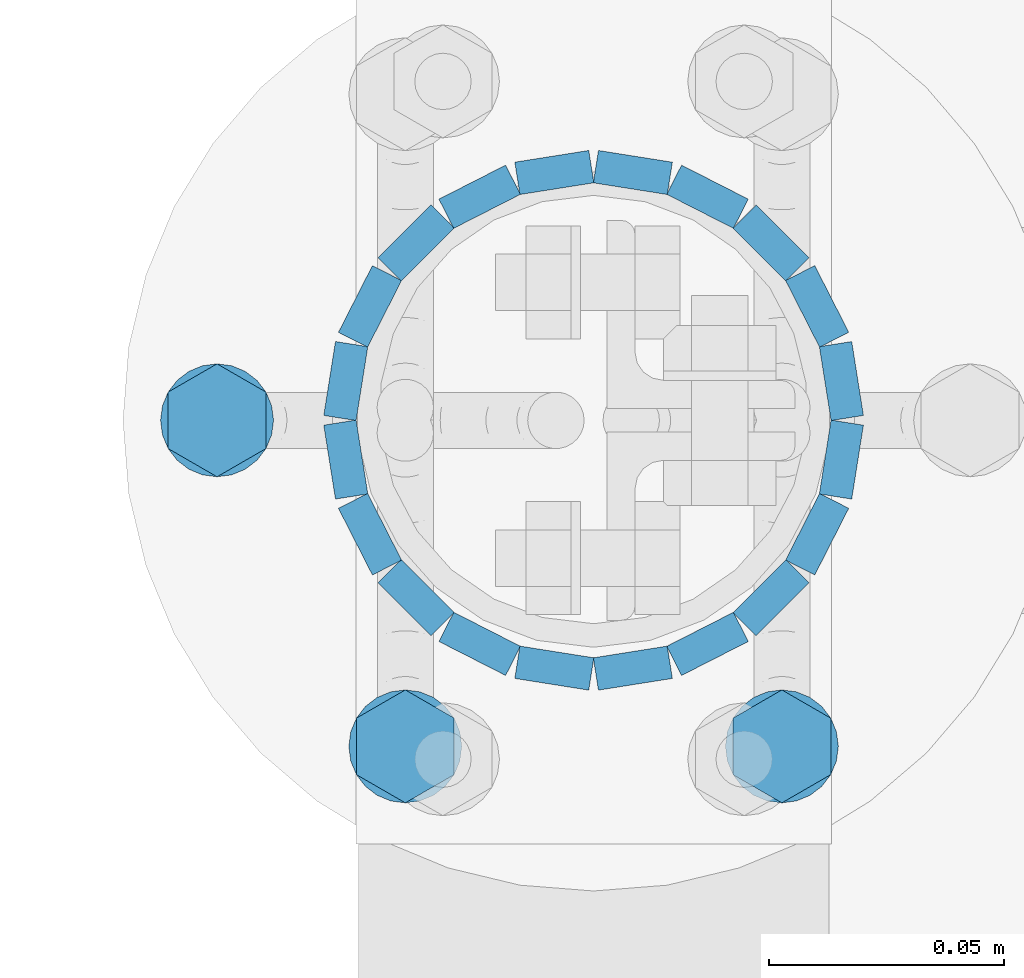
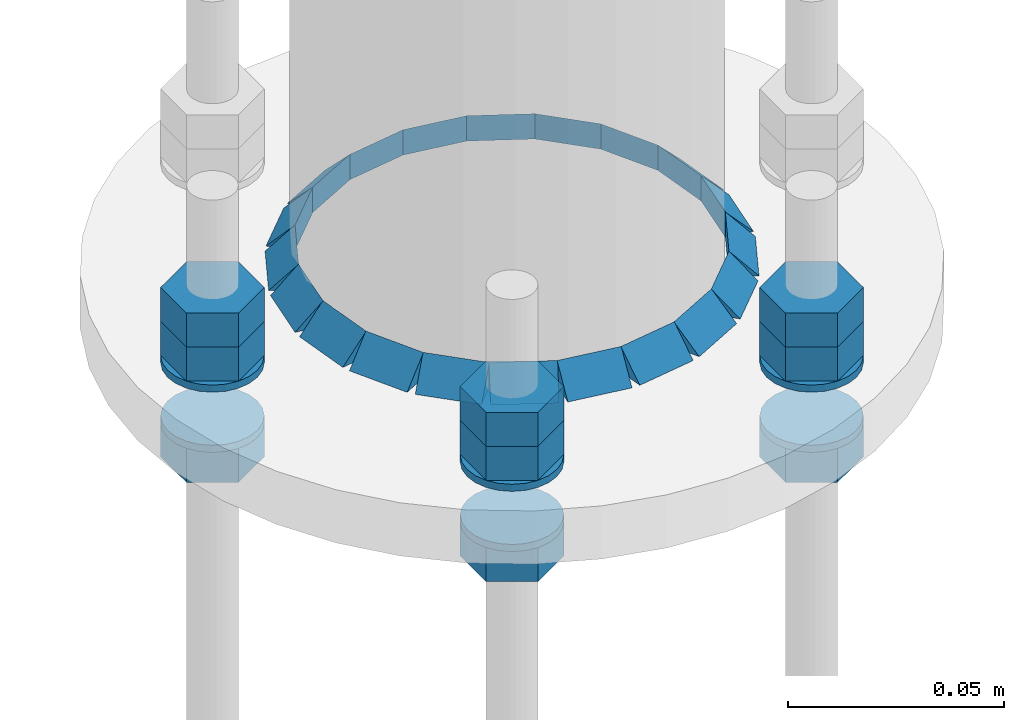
# One storey, part 24 of 84: 40 fasteners, 15 mechanical fasteners.
"""IFC4 building model written with IfcOpenShell, lengths in metres."""

from ifc_helpers import new_model, si_unit, frame, origin_with_axes, place, context, project, spatial, polyline, outline, extrude, type_object, element, save


model = new_model("IFC4")

# Units and contexts
model_context = context("Model", 3, precision=1e-05, world=origin_with_axes())
ifc_project = project(units=[si_unit("LENGTHUNIT", "METRE"), si_unit("AREAUNIT", "SQUARE_METRE"), si_unit("VOLUMEUNIT", "CUBIC_METRE"), si_unit("MASSUNIT", "GRAM", prefix="KILO"), si_unit("TIMEUNIT", "SECOND"), si_unit("PLANEANGLEUNIT", "RADIAN"), si_unit("SOLIDANGLEUNIT", "STERADIAN"), si_unit("THERMODYNAMICTEMPERATUREUNIT", "DEGREE_CELSIUS")], contexts=[model_context])

# Site, building, storey
placement_1 = place(None, origin_with_axes())
site = spatial("IfcSite", under=ifc_project, at=placement_1, Name="Italia", CompositionType="ELEMENT")
building = spatial("IfcBuilding", under=site, at=placement_1, Name="Tettoia", CompositionType="ELEMENT")
storey_placement = place(None, frame((0.0, 0.0, 4.199999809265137), z_axis=(0.0, 0.0, 1.0), x_axis=(1.0, 0.0, 0.0)))
storey = spatial("IfcBuildingStorey", under=building, at=storey_placement, Name="Storey 1", CompositionType="ELEMENT", Elevation=4.199999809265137)

# Fasteners
fastener_type_1 = type_object("IfcFastenerType", Name="Collegamento -003_0103", PredefinedType="WELD")
placement_2 = place(placement_1, origin_with_axes())
fastener_1_placement = place(placement_2, origin_with_axes())
element("IfcFastener", 1, at=fastener_1_placement, inside=storey, type_object=fastener_type_1, Name="Collegamento -003_0103", context=model_context, shape_type="SweptSolid", body=[
    extrude(outline(polyline([(0.0, 0.0), (0.00695801, 0.00717354), (0.00695801, 0.0), (0.0, 0.0)])), frame((8.30674, 4.70484, 4.01495), z_axis=(-0.987694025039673, 0.156398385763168, 0.0), x_axis=(-0.156398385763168, -0.987694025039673, 0.0)), (0.0, 0.0, 1.0), 0.0158998),
])
fastener_type_2 = type_object("IfcFastenerType", Name="Collegamento -003_0103", PredefinedType="WELD")
fastener_2_placement = place(placement_2, origin_with_axes())
element("IfcFastener", 2, at=fastener_2_placement, inside=storey, type_object=fastener_type_2, Name="Collegamento -003_0103", context=model_context, shape_type="SweptSolid", body=[
    extrude(outline(polyline([(0.0, 0.0), (0.00695705, 0.00717354), (0.00695705, 0.0), (0.0, 0.0)])), frame((8.32286, 4.69699, 4.01495), z_axis=(-0.891006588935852, 0.453990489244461, 0.0), x_axis=(-0.453990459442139, -0.891006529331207, 0.0)), (0.0, 0.0, 1.0), 0.0158998),
])
fastener_type_3 = type_object("IfcFastenerType", Name="Collegamento -003_0103", PredefinedType="WELD")
fastener_3_placement = place(placement_2, origin_with_axes())
element("IfcFastener", 3, at=fastener_3_placement, inside=storey, type_object=fastener_type_3, Name="Collegamento -003_0103", context=model_context, shape_type="SweptSolid", body=[
    extrude(outline(polyline([(0.0, 0.0), (0.00695801, 0.00717354), (0.00695801, 0.0), (0.0, 0.0)])), frame((8.33578, 4.68453, 4.01495), z_axis=(-0.70710676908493, 0.70710676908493, 0.0), x_axis=(-0.70710676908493, -0.70710676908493, 0.0)), (0.0, 0.0, 1.0), 0.0158998),
])
fastener_type_4 = type_object("IfcFastenerType", Name="Collegamento -003_0103", PredefinedType="WELD")
fastener_4_placement = place(placement_2, origin_with_axes())
element("IfcFastener", 4, at=fastener_4_placement, inside=storey, type_object=fastener_type_4, Name="Collegamento -003_0103", context=model_context, shape_type="SweptSolid", body=[
    extrude(outline(polyline([(0.0, 0.0), (0.00695896, 0.00717354), (0.00695896, 0.0), (0.0, 0.0)])), frame((8.34421, 4.6687, 4.01495), z_axis=(-0.453990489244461, 0.891006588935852, 0.0), x_axis=(-0.891006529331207, -0.453990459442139, 0.0)), (0.0, 0.0, 1.0), 0.0158998),
])
fastener_type_5 = type_object("IfcFastenerType", Name="Collegamento -003_0103", PredefinedType="WELD")
fastener_5_placement = place(placement_2, origin_with_axes())
element("IfcFastener", 5, at=fastener_5_placement, inside=storey, type_object=fastener_type_5, Name="Collegamento -003_0103", context=model_context, shape_type="SweptSolid", body=[
    extrude(outline(polyline([(0.0, 0.0), (0.00695896, 0.00717354), (0.00695896, 0.0), (0.0, 0.0)])), frame((8.34733, 4.65103, 4.01495), z_axis=(-0.1564861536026, 0.987680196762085, 0.0), x_axis=(-0.98768013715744, -0.156486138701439, 0.0)), (0.0, 0.0, 1.0), 0.0159),
])
fastener_type_6 = type_object("IfcFastenerType", Name="Collegamento -003_0103", PredefinedType="WELD")
fastener_6_placement = place(placement_2, origin_with_axes())
element("IfcFastener", 6, at=fastener_6_placement, inside=storey, type_object=fastener_type_6, Name="Collegamento -003_0103", context=model_context, shape_type="SweptSolid", body=[
    extrude(outline(polyline([(0.0, 0.0), (0.00695753, 0.00717354), (0.00695753, 0.0), (0.0, 0.0)])), frame((8.34484, 4.63326, 4.01495), z_axis=(0.1564861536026, 0.987680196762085, 0.0), x_axis=(-0.98768013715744, 0.156486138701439, 0.0)), (0.0, 0.0, 1.0), 0.0159),
])
fastener_type_7 = type_object("IfcFastenerType", Name="Collegamento -003_0103", PredefinedType="WELD")
fastener_7_placement = place(placement_2, origin_with_axes())
element("IfcFastener", 7, at=fastener_7_placement, inside=storey, type_object=fastener_type_7, Name="Collegamento -003_0103", context=model_context, shape_type="SweptSolid", body=[
    extrude(outline(polyline([(0.0, 0.0), (0.00695801, 0.00717354), (0.00695801, 0.0), (0.0, 0.0)])), frame((8.33699, 4.61714, 4.01495), z_axis=(0.453990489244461, 0.891006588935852, 0.0), x_axis=(-0.891006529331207, 0.453990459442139, 0.0)), (0.0, 0.0, 1.0), 0.0158998),
])
fastener_type_8 = type_object("IfcFastenerType", Name="Collegamento -003_0103", PredefinedType="WELD")
fastener_8_placement = place(placement_2, origin_with_axes())
element("IfcFastener", 8, at=fastener_8_placement, inside=storey, type_object=fastener_type_8, Name="Collegamento -003_0103", context=model_context, shape_type="SweptSolid", body=[
    extrude(outline(polyline([(0.0, 0.0), (0.00695801, 0.00717354), (0.00695801, 0.0), (0.0, 0.0)])), frame((8.32453, 4.60422, 4.01495), z_axis=(0.70710676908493, 0.70710676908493, 0.0), x_axis=(-0.70710676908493, 0.70710676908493, 0.0)), (0.0, 0.0, 1.0), 0.0158998),
])
fastener_type_9 = type_object("IfcFastenerType", Name="Collegamento -003_0103", PredefinedType="WELD")
fastener_9_placement = place(placement_2, origin_with_axes())
element("IfcFastener", 9, at=fastener_9_placement, inside=storey, type_object=fastener_type_9, Name="Collegamento -003_0103", context=model_context, shape_type="SweptSolid", body=[
    extrude(outline(polyline([(0.0, 0.0), (0.00695848, 0.00717354), (0.00695848, 0.0), (0.0, 0.0)])), frame((8.3087, 4.59579, 4.01495), z_axis=(0.891006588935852, 0.453990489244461, 0.0), x_axis=(-0.453990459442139, 0.891006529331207, 0.0)), (0.0, 0.0, 1.0), 0.0158998),
])
fastener_type_10 = type_object("IfcFastenerType", Name="Collegamento -003_0103", PredefinedType="WELD")
fastener_10_placement = place(placement_2, origin_with_axes())
element("IfcFastener", 10, at=fastener_10_placement, inside=storey, type_object=fastener_type_10, Name="Collegamento -003_0103", context=model_context, shape_type="SweptSolid", body=[
    extrude(outline(polyline([(0.0, 0.0), (0.00695777, 0.00717354), (0.00695777, 0.0), (0.0, 0.0)])), frame((8.29103, 4.59267, 4.01495), z_axis=(0.987694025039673, 0.156398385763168, 0.0), x_axis=(-0.156398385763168, 0.987694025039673, 0.0)), (0.0, 0.0, 1.0), 0.0158998),
])
fastener_type_11 = type_object("IfcFastenerType", Name="Collegamento -003_0103", PredefinedType="WELD")
fastener_11_placement = place(placement_2, origin_with_axes())
element("IfcFastener", 11, at=fastener_11_placement, inside=storey, type_object=fastener_type_11, Name="Collegamento -003_0103", context=model_context, shape_type="SweptSolid", body=[
    extrude(outline(polyline([(0.0, 0.0), (0.00695848, 0.00717354), (0.00695848, 0.0), (0.0, 0.0)])), frame((8.27326, 4.59516, 4.01495), z_axis=(0.987694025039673, -0.156398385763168, 0.0), x_axis=(0.156398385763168, 0.987694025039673, 0.0)), (0.0, 0.0, 1.0), 0.0158998),
])
fastener_type_12 = type_object("IfcFastenerType", Name="Collegamento -003_0103", PredefinedType="WELD")
fastener_12_placement = place(placement_2, origin_with_axes())
element("IfcFastener", 12, at=fastener_12_placement, inside=storey, type_object=fastener_type_12, Name="Collegamento -003_0103", context=model_context, shape_type="SweptSolid", body=[
    extrude(outline(polyline([(0.0, 0.0), (0.00695801, 0.00717354), (0.00695801, 0.0), (0.0, 0.0)])), frame((8.25714, 4.60301, 4.01495), z_axis=(0.891006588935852, -0.453990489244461, 0.0), x_axis=(0.453990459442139, 0.891006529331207, 0.0)), (0.0, 0.0, 1.0), 0.0158998),
])
fastener_type_13 = type_object("IfcFastenerType", Name="Collegamento -003_0103", PredefinedType="WELD")
fastener_13_placement = place(placement_2, origin_with_axes())
element("IfcFastener", 13, at=fastener_13_placement, inside=storey, type_object=fastener_type_13, Name="Collegamento -003_0103", context=model_context, shape_type="SweptSolid", body=[
    extrude(outline(polyline([(0.0, 0.0), (0.00695801, 0.00717354), (0.00695801, 0.0), (0.0, 0.0)])), frame((8.24422, 4.61547, 4.01495), z_axis=(0.70710676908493, -0.70710676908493, 0.0), x_axis=(0.70710676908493, 0.70710676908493, 0.0)), (0.0, 0.0, 1.0), 0.0158998),
])
fastener_type_14 = type_object("IfcFastenerType", Name="Collegamento -003_0103", PredefinedType="WELD")
fastener_14_placement = place(placement_2, origin_with_axes())
element("IfcFastener", 14, at=fastener_14_placement, inside=storey, type_object=fastener_type_14, Name="Collegamento -003_0103", context=model_context, shape_type="SweptSolid", body=[
    extrude(outline(polyline([(0.0, 0.0), (0.00695801, 0.00717354), (0.00695801, 0.0), (0.0, 0.0)])), frame((8.23579, 4.6313, 4.01495), z_axis=(0.453990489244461, -0.891006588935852, 0.0), x_axis=(0.891006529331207, 0.453990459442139, 0.0)), (0.0, 0.0, 1.0), 0.0158998),
])
fastener_type_15 = type_object("IfcFastenerType", Name="Collegamento -003_0103", PredefinedType="WELD")
fastener_15_placement = place(placement_2, origin_with_axes())
element("IfcFastener", 15, at=fastener_15_placement, inside=storey, type_object=fastener_type_15, Name="Collegamento -003_0103", context=model_context, shape_type="SweptSolid", body=[
    extrude(outline(polyline([(0.0, 0.0), (0.00695992, 0.00717354), (0.00695992, 0.0), (0.0, 0.0)])), frame((8.23267, 4.64897, 4.01495), z_axis=(0.1564861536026, -0.987680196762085, 0.0), x_axis=(0.98768013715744, 0.156486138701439, 0.0)), (0.0, 0.0, 1.0), 0.0159),
])
fastener_type_16 = type_object("IfcFastenerType", Name="Collegamento -003_0103", PredefinedType="WELD")
fastener_16_placement = place(placement_2, origin_with_axes())
element("IfcFastener", 16, at=fastener_16_placement, inside=storey, type_object=fastener_type_16, Name="Collegamento -003_0103", context=model_context, shape_type="SweptSolid", body=[
    extrude(outline(polyline([(0.0, 0.0), (0.00695753, 0.00717354), (0.00695753, 0.0), (0.0, 0.0)])), frame((8.23516, 4.66674, 4.01495), z_axis=(-0.1564861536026, -0.987680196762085, 0.0), x_axis=(0.98768013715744, -0.156486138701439, 0.0)), (0.0, 0.0, 1.0), 0.0159),
])
fastener_type_17 = type_object("IfcFastenerType", Name="Collegamento -003_0103", PredefinedType="WELD")
fastener_17_placement = place(placement_2, origin_with_axes())
element("IfcFastener", 17, at=fastener_17_placement, inside=storey, type_object=fastener_type_17, Name="Collegamento -003_0103", context=model_context, shape_type="SweptSolid", body=[
    extrude(outline(polyline([(0.0, 0.0), (0.00695848, 0.00717354), (0.00695848, 0.0), (0.0, 0.0)])), frame((8.24301, 4.68286, 4.01495), z_axis=(-0.453990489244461, -0.891006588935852, 0.0), x_axis=(0.891006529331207, -0.453990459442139, 0.0)), (0.0, 0.0, 1.0), 0.0158998),
])
fastener_type_18 = type_object("IfcFastenerType", Name="Collegamento -003_0103", PredefinedType="WELD")
fastener_18_placement = place(placement_2, origin_with_axes())
element("IfcFastener", 18, at=fastener_18_placement, inside=storey, type_object=fastener_type_18, Name="Collegamento -003_0103", context=model_context, shape_type="SweptSolid", body=[
    extrude(outline(polyline([(0.0, 0.0), (0.00695801, 0.00717354), (0.00695801, 0.0), (0.0, 0.0)])), frame((8.25547, 4.69578, 4.01495), z_axis=(-0.70710676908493, -0.70710676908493, 0.0), x_axis=(0.70710676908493, -0.70710676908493, 0.0)), (0.0, 0.0, 1.0), 0.0158998),
])
fastener_type_19 = type_object("IfcFastenerType", Name="Collegamento -003_0103", PredefinedType="WELD")
fastener_19_placement = place(placement_2, origin_with_axes())
element("IfcFastener", 19, at=fastener_19_placement, inside=storey, type_object=fastener_type_19, Name="Collegamento -003_0103", context=model_context, shape_type="SweptSolid", body=[
    extrude(outline(polyline([(0.0, 0.0), (0.00695825, 0.00717354), (0.00695825, 0.0), (0.0, 0.0)])), frame((8.2713, 4.70421, 4.01495), z_axis=(-0.891006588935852, -0.453990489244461, 0.0), x_axis=(0.453990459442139, -0.891006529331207, 0.0)), (0.0, 0.0, 1.0), 0.0158998),
])
fastener_type_20 = type_object("IfcFastenerType", Name="Collegamento -003_0103", PredefinedType="WELD")
fastener_20_placement = place(placement_2, origin_with_axes())
element("IfcFastener", 20, at=fastener_20_placement, inside=storey, type_object=fastener_type_20, Name="Collegamento -003_0103", context=model_context, shape_type="SweptSolid", body=[
    extrude(outline(polyline([(0.0, 0.0), (0.00695753, 0.00717354), (0.00695753, 0.0), (0.0, 0.0)])), frame((8.28897, 4.70733, 4.01495), z_axis=(-0.987694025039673, -0.156398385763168, 0.0), x_axis=(0.156398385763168, -0.987694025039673, 0.0)), (0.0, 0.0, 1.0), 0.0158998),
])
fastener_type_21 = type_object("IfcFastenerType", Name="Collegamento -003_0103", PredefinedType="WELD")
fastener_21_placement = place(placement_2, origin_with_axes())
element("IfcFastener", 21, at=fastener_21_placement, inside=storey, type_object=fastener_type_21, Name="Collegamento -003_0103", context=model_context, shape_type="SweptSolid", body=[
    extrude(outline(polyline([(0.0, 0.0), (0.00695801, 0.00717354), (0.00695801, 0.0), (0.0, 0.0)])), frame((8.30674, 4.70484, 4.01495), z_axis=(-0.987694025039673, 0.156398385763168, 0.0), x_axis=(-0.156398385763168, -0.987694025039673, 0.0)), (0.0, 0.0, 1.0), 0.0158998),
])
fastener_type_22 = type_object("IfcFastenerType", Name="Collegamento -003_0103", PredefinedType="WELD")
fastener_22_placement = place(placement_2, origin_with_axes())
element("IfcFastener", 22, at=fastener_22_placement, inside=storey, type_object=fastener_type_22, Name="Collegamento -003_0103", context=model_context, shape_type="SweptSolid", body=[
    extrude(outline(polyline([(0.0, 0.0), (0.00695705, 0.00717354), (0.00695705, 0.0), (0.0, 0.0)])), frame((8.32286, 4.69699, 4.01495), z_axis=(-0.891006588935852, 0.453990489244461, 0.0), x_axis=(-0.453990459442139, -0.891006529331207, 0.0)), (0.0, 0.0, 1.0), 0.0158998),
])
fastener_type_23 = type_object("IfcFastenerType", Name="Collegamento -003_0103", PredefinedType="WELD")
fastener_23_placement = place(placement_2, origin_with_axes())
element("IfcFastener", 23, at=fastener_23_placement, inside=storey, type_object=fastener_type_23, Name="Collegamento -003_0103", context=model_context, shape_type="SweptSolid", body=[
    extrude(outline(polyline([(0.0, 0.0), (0.00695801, 0.00717354), (0.00695801, 0.0), (0.0, 0.0)])), frame((8.33578, 4.68453, 4.01495), z_axis=(-0.70710676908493, 0.70710676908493, 0.0), x_axis=(-0.70710676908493, -0.70710676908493, 0.0)), (0.0, 0.0, 1.0), 0.0158998),
])
fastener_type_24 = type_object("IfcFastenerType", Name="Collegamento -003_0103", PredefinedType="WELD")
fastener_24_placement = place(placement_2, origin_with_axes())
element("IfcFastener", 24, at=fastener_24_placement, inside=storey, type_object=fastener_type_24, Name="Collegamento -003_0103", context=model_context, shape_type="SweptSolid", body=[
    extrude(outline(polyline([(0.0, 0.0), (0.00695896, 0.00717354), (0.00695896, 0.0), (0.0, 0.0)])), frame((8.34421, 4.6687, 4.01495), z_axis=(-0.453990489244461, 0.891006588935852, 0.0), x_axis=(-0.891006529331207, -0.453990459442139, 0.0)), (0.0, 0.0, 1.0), 0.0158998),
])
fastener_type_25 = type_object("IfcFastenerType", Name="Collegamento -003_0103", PredefinedType="WELD")
fastener_25_placement = place(placement_2, origin_with_axes())
element("IfcFastener", 25, at=fastener_25_placement, inside=storey, type_object=fastener_type_25, Name="Collegamento -003_0103", context=model_context, shape_type="SweptSolid", body=[
    extrude(outline(polyline([(0.0, 0.0), (0.00695896, 0.00717354), (0.00695896, 0.0), (0.0, 0.0)])), frame((8.34733, 4.65103, 4.01495), z_axis=(-0.1564861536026, 0.987680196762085, 0.0), x_axis=(-0.98768013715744, -0.156486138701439, 0.0)), (0.0, 0.0, 1.0), 0.0159),
])
fastener_type_26 = type_object("IfcFastenerType", Name="Collegamento -003_0103", PredefinedType="WELD")
fastener_26_placement = place(placement_2, origin_with_axes())
element("IfcFastener", 26, at=fastener_26_placement, inside=storey, type_object=fastener_type_26, Name="Collegamento -003_0103", context=model_context, shape_type="SweptSolid", body=[
    extrude(outline(polyline([(0.0, 0.0), (0.00695753, 0.00717354), (0.00695753, 0.0), (0.0, 0.0)])), frame((8.34484, 4.63326, 4.01495), z_axis=(0.1564861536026, 0.987680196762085, 0.0), x_axis=(-0.98768013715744, 0.156486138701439, 0.0)), (0.0, 0.0, 1.0), 0.0159),
])
fastener_type_27 = type_object("IfcFastenerType", Name="Collegamento -003_0103", PredefinedType="WELD")
fastener_27_placement = place(placement_2, origin_with_axes())
element("IfcFastener", 27, at=fastener_27_placement, inside=storey, type_object=fastener_type_27, Name="Collegamento -003_0103", context=model_context, shape_type="SweptSolid", body=[
    extrude(outline(polyline([(0.0, 0.0), (0.00695801, 0.00717354), (0.00695801, 0.0), (0.0, 0.0)])), frame((8.33699, 4.61714, 4.01495), z_axis=(0.453990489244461, 0.891006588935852, 0.0), x_axis=(-0.891006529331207, 0.453990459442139, 0.0)), (0.0, 0.0, 1.0), 0.0158998),
])
fastener_type_28 = type_object("IfcFastenerType", Name="Collegamento -003_0103", PredefinedType="WELD")
fastener_28_placement = place(placement_2, origin_with_axes())
element("IfcFastener", 28, at=fastener_28_placement, inside=storey, type_object=fastener_type_28, Name="Collegamento -003_0103", context=model_context, shape_type="SweptSolid", body=[
    extrude(outline(polyline([(0.0, 0.0), (0.00695801, 0.00717354), (0.00695801, 0.0), (0.0, 0.0)])), frame((8.32453, 4.60422, 4.01495), z_axis=(0.70710676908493, 0.70710676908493, 0.0), x_axis=(-0.70710676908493, 0.70710676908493, 0.0)), (0.0, 0.0, 1.0), 0.0158998),
])
fastener_type_29 = type_object("IfcFastenerType", Name="Collegamento -003_0103", PredefinedType="WELD")
fastener_29_placement = place(placement_2, origin_with_axes())
element("IfcFastener", 29, at=fastener_29_placement, inside=storey, type_object=fastener_type_29, Name="Collegamento -003_0103", context=model_context, shape_type="SweptSolid", body=[
    extrude(outline(polyline([(0.0, 0.0), (0.00695848, 0.00717354), (0.00695848, 0.0), (0.0, 0.0)])), frame((8.3087, 4.59579, 4.01495), z_axis=(0.891006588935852, 0.453990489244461, 0.0), x_axis=(-0.453990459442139, 0.891006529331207, 0.0)), (0.0, 0.0, 1.0), 0.0158998),
])
fastener_type_30 = type_object("IfcFastenerType", Name="Collegamento -003_0103", PredefinedType="WELD")
fastener_30_placement = place(placement_2, origin_with_axes())
element("IfcFastener", 30, at=fastener_30_placement, inside=storey, type_object=fastener_type_30, Name="Collegamento -003_0103", context=model_context, shape_type="SweptSolid", body=[
    extrude(outline(polyline([(0.0, 0.0), (0.00695777, 0.00717354), (0.00695777, 0.0), (0.0, 0.0)])), frame((8.29103, 4.59267, 4.01495), z_axis=(0.987694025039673, 0.156398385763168, 0.0), x_axis=(-0.156398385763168, 0.987694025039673, 0.0)), (0.0, 0.0, 1.0), 0.0158998),
])
fastener_type_31 = type_object("IfcFastenerType", Name="Collegamento -003_0103", PredefinedType="WELD")
fastener_31_placement = place(placement_2, origin_with_axes())
element("IfcFastener", 31, at=fastener_31_placement, inside=storey, type_object=fastener_type_31, Name="Collegamento -003_0103", context=model_context, shape_type="SweptSolid", body=[
    extrude(outline(polyline([(0.0, 0.0), (0.00695848, 0.00717354), (0.00695848, 0.0), (0.0, 0.0)])), frame((8.27326, 4.59516, 4.01495), z_axis=(0.987694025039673, -0.156398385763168, 0.0), x_axis=(0.156398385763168, 0.987694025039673, 0.0)), (0.0, 0.0, 1.0), 0.0158998),
])
fastener_type_32 = type_object("IfcFastenerType", Name="Collegamento -003_0103", PredefinedType="WELD")
fastener_32_placement = place(placement_2, origin_with_axes())
element("IfcFastener", 32, at=fastener_32_placement, inside=storey, type_object=fastener_type_32, Name="Collegamento -003_0103", context=model_context, shape_type="SweptSolid", body=[
    extrude(outline(polyline([(0.0, 0.0), (0.00695801, 0.00717354), (0.00695801, 0.0), (0.0, 0.0)])), frame((8.25714, 4.60301, 4.01495), z_axis=(0.891006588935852, -0.453990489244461, 0.0), x_axis=(0.453990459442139, 0.891006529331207, 0.0)), (0.0, 0.0, 1.0), 0.0158998),
])
fastener_type_33 = type_object("IfcFastenerType", Name="Collegamento -003_0103", PredefinedType="WELD")
fastener_33_placement = place(placement_2, origin_with_axes())
element("IfcFastener", 33, at=fastener_33_placement, inside=storey, type_object=fastener_type_33, Name="Collegamento -003_0103", context=model_context, shape_type="SweptSolid", body=[
    extrude(outline(polyline([(0.0, 0.0), (0.00695801, 0.00717354), (0.00695801, 0.0), (0.0, 0.0)])), frame((8.24422, 4.61547, 4.01495), z_axis=(0.70710676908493, -0.70710676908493, 0.0), x_axis=(0.70710676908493, 0.70710676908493, 0.0)), (0.0, 0.0, 1.0), 0.0158998),
])
fastener_type_34 = type_object("IfcFastenerType", Name="Collegamento -003_0103", PredefinedType="WELD")
fastener_34_placement = place(placement_2, origin_with_axes())
element("IfcFastener", 34, at=fastener_34_placement, inside=storey, type_object=fastener_type_34, Name="Collegamento -003_0103", context=model_context, shape_type="SweptSolid", body=[
    extrude(outline(polyline([(0.0, 0.0), (0.00695801, 0.00717354), (0.00695801, 0.0), (0.0, 0.0)])), frame((8.23579, 4.6313, 4.01495), z_axis=(0.453990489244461, -0.891006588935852, 0.0), x_axis=(0.891006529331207, 0.453990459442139, 0.0)), (0.0, 0.0, 1.0), 0.0158998),
])
fastener_type_35 = type_object("IfcFastenerType", Name="Collegamento -003_0103", PredefinedType="WELD")
fastener_35_placement = place(placement_2, origin_with_axes())
element("IfcFastener", 35, at=fastener_35_placement, inside=storey, type_object=fastener_type_35, Name="Collegamento -003_0103", context=model_context, shape_type="SweptSolid", body=[
    extrude(outline(polyline([(0.0, 0.0), (0.00695992, 0.00717354), (0.00695992, 0.0), (0.0, 0.0)])), frame((8.23267, 4.64897, 4.01495), z_axis=(0.1564861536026, -0.987680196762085, 0.0), x_axis=(0.98768013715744, 0.156486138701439, 0.0)), (0.0, 0.0, 1.0), 0.0159),
])
fastener_type_36 = type_object("IfcFastenerType", Name="Collegamento -003_0103", PredefinedType="WELD")
fastener_36_placement = place(placement_2, origin_with_axes())
element("IfcFastener", 36, at=fastener_36_placement, inside=storey, type_object=fastener_type_36, Name="Collegamento -003_0103", context=model_context, shape_type="SweptSolid", body=[
    extrude(outline(polyline([(0.0, 0.0), (0.00695753, 0.00717354), (0.00695753, 0.0), (0.0, 0.0)])), frame((8.23516, 4.66674, 4.01495), z_axis=(-0.1564861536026, -0.987680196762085, 0.0), x_axis=(0.98768013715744, -0.156486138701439, 0.0)), (0.0, 0.0, 1.0), 0.0159),
])
fastener_type_37 = type_object("IfcFastenerType", Name="Collegamento -003_0103", PredefinedType="WELD")
fastener_37_placement = place(placement_2, origin_with_axes())
element("IfcFastener", 37, at=fastener_37_placement, inside=storey, type_object=fastener_type_37, Name="Collegamento -003_0103", context=model_context, shape_type="SweptSolid", body=[
    extrude(outline(polyline([(0.0, 0.0), (0.00695848, 0.00717354), (0.00695848, 0.0), (0.0, 0.0)])), frame((8.24301, 4.68286, 4.01495), z_axis=(-0.453990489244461, -0.891006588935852, 0.0), x_axis=(0.891006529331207, -0.453990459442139, 0.0)), (0.0, 0.0, 1.0), 0.0158998),
])
fastener_type_38 = type_object("IfcFastenerType", Name="Collegamento -003_0103", PredefinedType="WELD")
fastener_38_placement = place(placement_2, origin_with_axes())
element("IfcFastener", 38, at=fastener_38_placement, inside=storey, type_object=fastener_type_38, Name="Collegamento -003_0103", context=model_context, shape_type="SweptSolid", body=[
    extrude(outline(polyline([(0.0, 0.0), (0.00695801, 0.00717354), (0.00695801, 0.0), (0.0, 0.0)])), frame((8.25547, 4.69578, 4.01495), z_axis=(-0.70710676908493, -0.70710676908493, 0.0), x_axis=(0.70710676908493, -0.70710676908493, 0.0)), (0.0, 0.0, 1.0), 0.0158998),
])
fastener_type_39 = type_object("IfcFastenerType", Name="Collegamento -003_0103", PredefinedType="WELD")
fastener_39_placement = place(placement_2, origin_with_axes())
element("IfcFastener", 39, at=fastener_39_placement, inside=storey, type_object=fastener_type_39, Name="Collegamento -003_0103", context=model_context, shape_type="SweptSolid", body=[
    extrude(outline(polyline([(0.0, 0.0), (0.00695825, 0.00717354), (0.00695825, 0.0), (0.0, 0.0)])), frame((8.2713, 4.70421, 4.01495), z_axis=(-0.891006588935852, -0.453990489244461, 0.0), x_axis=(0.453990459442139, -0.891006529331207, 0.0)), (0.0, 0.0, 1.0), 0.0158998),
])
fastener_type_40 = type_object("IfcFastenerType", Name="Collegamento -003_0103", PredefinedType="WELD")
fastener_40_placement = place(placement_2, origin_with_axes())
element("IfcFastener", 40, at=fastener_40_placement, inside=storey, type_object=fastener_type_40, Name="Collegamento -003_0103", context=model_context, shape_type="SweptSolid", body=[
    extrude(outline(polyline([(0.0, 0.0), (0.00695753, 0.00717354), (0.00695753, 0.0), (0.0, 0.0)])), frame((8.28897, 4.70733, 4.01495), z_axis=(-0.987694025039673, -0.156398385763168, 0.0), x_axis=(0.156398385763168, -0.987694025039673, 0.0)), (0.0, 0.0, 1.0), 0.0158998),
])

# Mechanical fasteners
mechanical_fastener_type_1 = type_object("IfcMechanicalFastenerType", Name="Collegamento -003_0103", PredefinedType="BOLT")
mechanical_fastener_1_placement = place(placement_2, origin_with_axes())
element("IfcMechanicalFastener", 41, at=mechanical_fastener_1_placement, inside=storey, type_object=mechanical_fastener_type_1, Name="Collegamento -003_0103", NominalDiameter=0.0119999, context=model_context, shape_type="SweptSolid", body=[
    extrude(outline(polyline([(0.0, 0.0), (-0.0120001, 0.0), (-0.0180001, 0.0103922), (-0.0120001, 0.0207844), (0.0, 0.0207844), (0.00600004, 0.0103922), (0.0, 0.0)])), frame((8.22039, 4.656, 4.017), z_axis=(0.0, 0.0, 1.0), x_axis=(0.0, 1.0, 0.0)), (0.0, 0.0, 1.0), 0.00959969),
])
mechanical_fastener_type_2 = type_object("IfcMechanicalFastenerType", Name="Collegamento -003_0103", PredefinedType="BOLT")
mechanical_fastener_2_placement = place(placement_2, origin_with_axes())
element("IfcMechanicalFastener", 42, at=mechanical_fastener_2_placement, inside=storey, type_object=mechanical_fastener_type_2, Name="Collegamento -003_0103", NominalDiameter=0.0119999, context=model_context, shape_type="SweptSolid", body=[
    extrude(outline(polyline([(0.0, 0.0), (-0.0120001, 0.0), (-0.0180001, 0.0103922), (-0.0120001, 0.0207844), (0.0, 0.0207844), (0.00600004, 0.0103922), (0.0, 0.0)])), frame((8.22039, 4.656, 4.0266), z_axis=(0.0, 0.0, 1.0), x_axis=(0.0, 1.0, 0.0)), (0.0, 0.0, 1.0), 0.00960016),
])
mechanical_fastener_type_3 = type_object("IfcMechanicalFastenerType", Name="Collegamento -003_0103", PredefinedType="BOLT")
mechanical_fastener_3_placement = place(placement_2, origin_with_axes())
element("IfcMechanicalFastener", 43, at=mechanical_fastener_3_placement, inside=storey, type_object=mechanical_fastener_type_3, Name="Collegamento -003_0103", NominalDiameter=0.0119999, context=model_context, shape_type="SweptSolid", body=[
    extrude(outline(polyline([(0.0, 0.0), (-0.0120001, 0.0), (-0.0180001, 0.0103922), (-0.0120001, 0.0207844), (0.0, 0.0207844), (0.00600004, 0.0103922), (0.0, 0.0)])), frame((8.22039, 4.656, 3.9884), z_axis=(0.0, 0.0, 1.0), x_axis=(0.0, 1.0, 0.0)), (0.0, 0.0, 1.0), 0.00959992),
])
mechanical_fastener_type_4 = type_object("IfcMechanicalFastenerType", Name="Collegamento -003_0103", PredefinedType="BOLT")
mechanical_fastener_4_placement = place(placement_2, origin_with_axes())
element("IfcMechanicalFastener", 44, at=mechanical_fastener_4_placement, inside=storey, type_object=mechanical_fastener_type_4, Name="Collegamento -003_0103", NominalDiameter=0.024, context=model_context, shape_type="SweptSolid", body=[
    extrude(outline(polyline([(0.0, 0.0), (-0.000409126, -0.00310612), (-0.00160789, -0.00599957), (-0.00351477, -0.00848484), (-0.00600004, -0.0103922), (-0.00889444, -0.011591), (-0.0120001, -0.0120001), (-0.0151057, -0.011591), (-0.0180001, -0.0103922), (-0.0204854, -0.00848484), (-0.0223923, -0.00599957), (-0.023591, -0.00310612), (-0.0240002, 0.0), (-0.023591, 0.00310612), (-0.0223923, 0.00599957), (-0.0204854, 0.00848484), (-0.0180001, 0.0103922), (-0.0151057, 0.011591), (-0.0120001, 0.0120001), (-0.00889444, 0.011591), (-0.00600004, 0.0103922), (-0.00351477, 0.00848484), (-0.00160789, 0.00599957), (-0.000409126, 0.00310612), (0.0, 0.0)])), frame((8.21, 4.662, 4.015), z_axis=(0.0, 0.0, 1.0), x_axis=(0.0, 1.0, 0.0)), (0.0, 0.0, 1.0), 0.00200033),
])
mechanical_fastener_type_5 = type_object("IfcMechanicalFastenerType", Name="Collegamento -003_0103", PredefinedType="BOLT")
mechanical_fastener_5_placement = place(placement_2, origin_with_axes())
element("IfcMechanicalFastener", 45, at=mechanical_fastener_5_placement, inside=storey, type_object=mechanical_fastener_type_5, Name="Collegamento -003_0103", NominalDiameter=0.024, context=model_context, shape_type="SweptSolid", body=[
    extrude(outline(polyline([(0.0, 0.0), (-0.000409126, -0.00310612), (-0.00160789, -0.00599957), (-0.00351477, -0.00848484), (-0.00600004, -0.0103922), (-0.00889444, -0.011591), (-0.0120001, -0.0120001), (-0.0151057, -0.011591), (-0.0180001, -0.0103922), (-0.0204854, -0.00848484), (-0.0223923, -0.00599957), (-0.023591, -0.00310612), (-0.0240002, 0.0), (-0.023591, 0.00310612), (-0.0223923, 0.00599957), (-0.0204854, 0.00848484), (-0.0180001, 0.0103922), (-0.0151057, 0.011591), (-0.0120001, 0.0120001), (-0.00889444, 0.011591), (-0.00600004, 0.0103922), (-0.00351477, 0.00848484), (-0.00160789, 0.00599957), (-0.000409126, 0.00310612), (0.0, 0.0)])), frame((8.21, 4.662, 3.998), z_axis=(0.0, 0.0, 1.0), x_axis=(0.0, 1.0, 0.0)), (0.0, 0.0, 1.0), 0.00200009),
])
mechanical_fastener_type_6 = type_object("IfcMechanicalFastenerType", Name="Collegamento -003_0103", PredefinedType="BOLT")
mechanical_fastener_6_placement = place(placement_2, origin_with_axes())
element("IfcMechanicalFastener", 46, at=mechanical_fastener_6_placement, inside=storey, type_object=mechanical_fastener_type_6, Name="Collegamento -003_0103", NominalDiameter=0.0119999, context=model_context, shape_type="SweptSolid", body=[
    extrude(outline(polyline([(0.0, 0.0), (-0.0120001, 0.0), (-0.0180001, 0.0103922), (-0.0120001, 0.0207844), (0.0, 0.0207844), (0.00600004, 0.0103922), (0.0, 0.0)])), frame((8.26039, 4.58672, 4.017), z_axis=(0.0, 0.0, 1.0), x_axis=(0.0, 1.0, 0.0)), (0.0, 0.0, 1.0), 0.00959969),
])
mechanical_fastener_type_7 = type_object("IfcMechanicalFastenerType", Name="Collegamento -003_0103", PredefinedType="BOLT")
mechanical_fastener_7_placement = place(placement_2, origin_with_axes())
element("IfcMechanicalFastener", 47, at=mechanical_fastener_7_placement, inside=storey, type_object=mechanical_fastener_type_7, Name="Collegamento -003_0103", NominalDiameter=0.0119999, context=model_context, shape_type="SweptSolid", body=[
    extrude(outline(polyline([(0.0, 0.0), (-0.0120001, 0.0), (-0.0180001, 0.0103922), (-0.0120001, 0.0207844), (0.0, 0.0207844), (0.00600004, 0.0103922), (0.0, 0.0)])), frame((8.26039, 4.58672, 4.0266), z_axis=(0.0, 0.0, 1.0), x_axis=(0.0, 1.0, 0.0)), (0.0, 0.0, 1.0), 0.00960016),
])
mechanical_fastener_type_8 = type_object("IfcMechanicalFastenerType", Name="Collegamento -003_0103", PredefinedType="BOLT")
mechanical_fastener_8_placement = place(placement_2, origin_with_axes())
element("IfcMechanicalFastener", 48, at=mechanical_fastener_8_placement, inside=storey, type_object=mechanical_fastener_type_8, Name="Collegamento -003_0103", NominalDiameter=0.0119999, context=model_context, shape_type="SweptSolid", body=[
    extrude(outline(polyline([(0.0, 0.0), (-0.0120001, 0.0), (-0.0180001, 0.0103922), (-0.0120001, 0.0207844), (0.0, 0.0207844), (0.00600004, 0.0103922), (0.0, 0.0)])), frame((8.26039, 4.58672, 3.9884), z_axis=(0.0, 0.0, 1.0), x_axis=(0.0, 1.0, 0.0)), (0.0, 0.0, 1.0), 0.00959992),
])
mechanical_fastener_type_9 = type_object("IfcMechanicalFastenerType", Name="Collegamento -003_0103", PredefinedType="BOLT")
mechanical_fastener_9_placement = place(placement_2, origin_with_axes())
element("IfcMechanicalFastener", 49, at=mechanical_fastener_9_placement, inside=storey, type_object=mechanical_fastener_type_9, Name="Collegamento -003_0103", NominalDiameter=0.024, context=model_context, shape_type="SweptSolid", body=[
    extrude(outline(polyline([(0.0, 0.0), (-0.000409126, -0.00310612), (-0.00160789, -0.00599957), (-0.00351477, -0.00848484), (-0.00600004, -0.0103922), (-0.00889444, -0.011591), (-0.0120001, -0.0120001), (-0.0151057, -0.011591), (-0.0180001, -0.0103922), (-0.0204854, -0.00848484), (-0.0223923, -0.00599957), (-0.023591, -0.00310612), (-0.0240002, 0.0), (-0.023591, 0.00310612), (-0.0223923, 0.00599957), (-0.0204854, 0.00848484), (-0.0180001, 0.0103922), (-0.0151057, 0.011591), (-0.0120001, 0.0120001), (-0.00889444, 0.011591), (-0.00600004, 0.0103922), (-0.00351477, 0.00848484), (-0.00160789, 0.00599957), (-0.000409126, 0.00310612), (0.0, 0.0)])), frame((8.25, 4.59272, 4.015), z_axis=(0.0, 0.0, 1.0), x_axis=(0.0, 1.0, 0.0)), (0.0, 0.0, 1.0), 0.00200033),
])
mechanical_fastener_type_10 = type_object("IfcMechanicalFastenerType", Name="Collegamento -003_0103", PredefinedType="BOLT")
mechanical_fastener_10_placement = place(placement_2, origin_with_axes())
element("IfcMechanicalFastener", 50, at=mechanical_fastener_10_placement, inside=storey, type_object=mechanical_fastener_type_10, Name="Collegamento -003_0103", NominalDiameter=0.024, context=model_context, shape_type="SweptSolid", body=[
    extrude(outline(polyline([(0.0, 0.0), (-0.000409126, -0.00310612), (-0.00160789, -0.00599957), (-0.00351477, -0.00848484), (-0.00600004, -0.0103922), (-0.00889444, -0.011591), (-0.0120001, -0.0120001), (-0.0151057, -0.011591), (-0.0180001, -0.0103922), (-0.0204854, -0.00848484), (-0.0223923, -0.00599957), (-0.023591, -0.00310612), (-0.0240002, 0.0), (-0.023591, 0.00310612), (-0.0223923, 0.00599957), (-0.0204854, 0.00848484), (-0.0180001, 0.0103922), (-0.0151057, 0.011591), (-0.0120001, 0.0120001), (-0.00889444, 0.011591), (-0.00600004, 0.0103922), (-0.00351477, 0.00848484), (-0.00160789, 0.00599957), (-0.000409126, 0.00310612), (0.0, 0.0)])), frame((8.25, 4.59272, 3.998), z_axis=(0.0, 0.0, 1.0), x_axis=(0.0, 1.0, 0.0)), (0.0, 0.0, 1.0), 0.00200009),
])
mechanical_fastener_type_11 = type_object("IfcMechanicalFastenerType", Name="Collegamento -003_0103", PredefinedType="BOLT")
mechanical_fastener_11_placement = place(placement_2, origin_with_axes())
element("IfcMechanicalFastener", 51, at=mechanical_fastener_11_placement, inside=storey, type_object=mechanical_fastener_type_11, Name="Collegamento -003_0103", NominalDiameter=0.0119999, context=model_context, shape_type="SweptSolid", body=[
    extrude(outline(polyline([(0.0, 0.0), (-0.0120001, 0.0), (-0.0180001, 0.0103922), (-0.0120001, 0.0207844), (0.0, 0.0207844), (0.00600004, 0.0103922), (0.0, 0.0)])), frame((8.34039, 4.58672, 4.017), z_axis=(0.0, 0.0, 1.0), x_axis=(0.0, 1.0, 0.0)), (0.0, 0.0, 1.0), 0.00959969),
])
mechanical_fastener_type_12 = type_object("IfcMechanicalFastenerType", Name="Collegamento -003_0103", PredefinedType="BOLT")
mechanical_fastener_12_placement = place(placement_2, origin_with_axes())
element("IfcMechanicalFastener", 52, at=mechanical_fastener_12_placement, inside=storey, type_object=mechanical_fastener_type_12, Name="Collegamento -003_0103", NominalDiameter=0.0119999, context=model_context, shape_type="SweptSolid", body=[
    extrude(outline(polyline([(0.0, 0.0), (-0.0120001, 0.0), (-0.0180001, 0.0103922), (-0.0120001, 0.0207844), (0.0, 0.0207844), (0.00600004, 0.0103922), (0.0, 0.0)])), frame((8.34039, 4.58672, 4.0266), z_axis=(0.0, 0.0, 1.0), x_axis=(0.0, 1.0, 0.0)), (0.0, 0.0, 1.0), 0.00960016),
])
mechanical_fastener_type_13 = type_object("IfcMechanicalFastenerType", Name="Collegamento -003_0103", PredefinedType="BOLT")
mechanical_fastener_13_placement = place(placement_2, origin_with_axes())
element("IfcMechanicalFastener", 53, at=mechanical_fastener_13_placement, inside=storey, type_object=mechanical_fastener_type_13, Name="Collegamento -003_0103", NominalDiameter=0.0119999, context=model_context, shape_type="SweptSolid", body=[
    extrude(outline(polyline([(0.0, 0.0), (-0.0120001, 0.0), (-0.0180001, 0.0103922), (-0.0120001, 0.0207844), (0.0, 0.0207844), (0.00600004, 0.0103922), (0.0, 0.0)])), frame((8.34039, 4.58672, 3.9884), z_axis=(0.0, 0.0, 1.0), x_axis=(0.0, 1.0, 0.0)), (0.0, 0.0, 1.0), 0.00959992),
])
mechanical_fastener_type_14 = type_object("IfcMechanicalFastenerType", Name="Collegamento -003_0103", PredefinedType="BOLT")
mechanical_fastener_14_placement = place(placement_2, origin_with_axes())
element("IfcMechanicalFastener", 54, at=mechanical_fastener_14_placement, inside=storey, type_object=mechanical_fastener_type_14, Name="Collegamento -003_0103", NominalDiameter=0.024, context=model_context, shape_type="SweptSolid", body=[
    extrude(outline(polyline([(0.0, 0.0), (-0.000409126, -0.00310612), (-0.00160789, -0.00599957), (-0.00351477, -0.00848484), (-0.00600004, -0.0103922), (-0.00889444, -0.011591), (-0.0120001, -0.0120001), (-0.0151057, -0.011591), (-0.0180001, -0.0103922), (-0.0204854, -0.00848484), (-0.0223923, -0.00599957), (-0.023591, -0.00310612), (-0.0240002, 0.0), (-0.023591, 0.00310612), (-0.0223923, 0.00599957), (-0.0204854, 0.00848484), (-0.0180001, 0.0103922), (-0.0151057, 0.011591), (-0.0120001, 0.0120001), (-0.00889444, 0.011591), (-0.00600004, 0.0103922), (-0.00351477, 0.00848484), (-0.00160789, 0.00599957), (-0.000409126, 0.00310612), (0.0, 0.0)])), frame((8.33, 4.59272, 4.015), z_axis=(0.0, 0.0, 1.0), x_axis=(0.0, 1.0, 0.0)), (0.0, 0.0, 1.0), 0.00200033),
])
mechanical_fastener_type_15 = type_object("IfcMechanicalFastenerType", Name="Collegamento -003_0103", PredefinedType="BOLT")
mechanical_fastener_15_placement = place(placement_2, origin_with_axes())
element("IfcMechanicalFastener", 55, at=mechanical_fastener_15_placement, inside=storey, type_object=mechanical_fastener_type_15, Name="Collegamento -003_0103", NominalDiameter=0.024, context=model_context, shape_type="SweptSolid", body=[
    extrude(outline(polyline([(0.0, 0.0), (-0.000409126, -0.00310612), (-0.00160789, -0.00599957), (-0.00351477, -0.00848484), (-0.00600004, -0.0103922), (-0.00889444, -0.011591), (-0.0120001, -0.0120001), (-0.0151057, -0.011591), (-0.0180001, -0.0103922), (-0.0204854, -0.00848484), (-0.0223923, -0.00599957), (-0.023591, -0.00310612), (-0.0240002, 0.0), (-0.023591, 0.00310612), (-0.0223923, 0.00599957), (-0.0204854, 0.00848484), (-0.0180001, 0.0103922), (-0.0151057, 0.011591), (-0.0120001, 0.0120001), (-0.00889444, 0.011591), (-0.00600004, 0.0103922), (-0.00351477, 0.00848484), (-0.00160789, 0.00599957), (-0.000409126, 0.00310612), (0.0, 0.0)])), frame((8.33, 4.59272, 3.998), z_axis=(0.0, 0.0, 1.0), x_axis=(0.0, 1.0, 0.0)), (0.0, 0.0, 1.0), 0.00200009),
])

save(model, "model.ifc")
